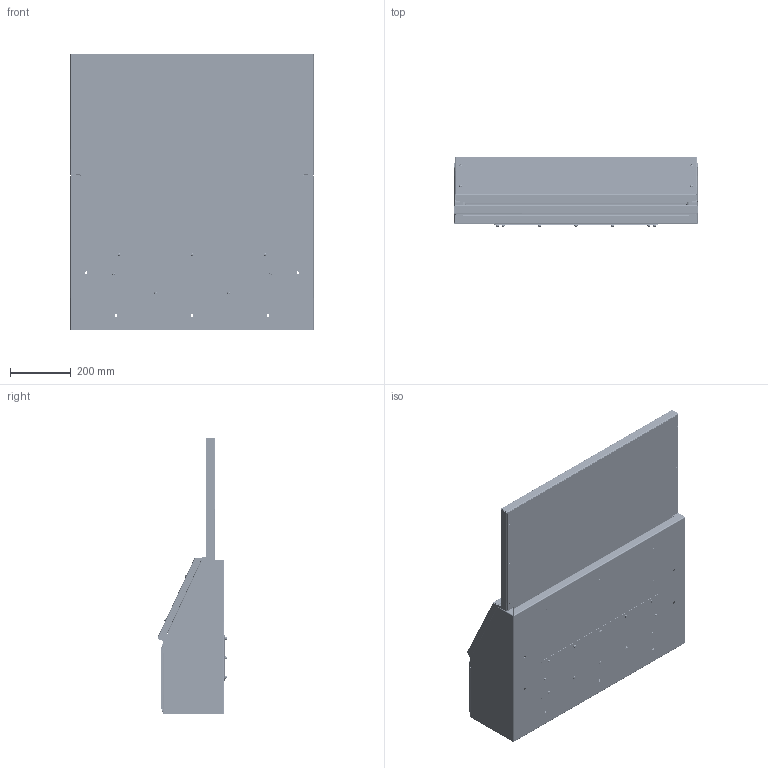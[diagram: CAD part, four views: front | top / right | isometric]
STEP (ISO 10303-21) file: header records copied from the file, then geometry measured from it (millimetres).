
FILE_DESCRIPTION (( 'STEP AP203' ), '1' );
FILE_NAME ('UCS 20.80.90-SPL Ñðåäíÿÿ ÷àñòü ïóëüòà.STEP', '2025-10-02T13:25:29', ( '' ), ( '' ), 'SwSTEP 2.0', 'SolidWorks 2019', '' );
FILE_SCHEMA (( 'CONFIG_CONTROL_DESIGN' ));
Length unit declared in the file: millimetre
Products named in the file (23): UCS 20.80.90-SPL.03.001 拟屦黖UCS 20.80.90-SPL.03.001; UCS 20.80.90-SPL.01.001 扻豵鵨_UCS 20.80.90-SPL.01.001 ; UCS 20.80.90-SPL.05.011 迶鳹樇鳺_05-620; socket button head screw_iso_ISO 7380 - M6 x 12 --- 12N; Øïèëüêà çàçåìëåíèÿ Ì6õ17,5_˜¯¨«ìª  § §¥¬«¥­¨ï Œ6å17,5; UCS 20.80.90-SPL.05.011 迶鳹樇鳺_02-222; Äåòàëü2^##UCS 20.80.90-SPL Ñðåäíÿÿ ÷àñòü ïóëüòà; UCS 20.80.90-SPL.05.001 Âåðõíÿÿ êðûøêà_UCS 20.80.90-SPL.05.001; PKV Y.15 相礤朦 赅徨朦眍泐 忖钿郷PKV 60(15); Äåòàëü1^##UCS 20.80.90-SPL Ñðåäíÿÿ ÷àñòü ïóëüòà_800; 妈眚 襦祛磬疱玎栝_4,8x11; UCS 20.80.90-SPL.05.002 Êðûøêà íèæíÿÿ_UCS 20.80.90-SPL.05.002; UCS 20.80.90-SPL.01.000 蚜 暑痫篑 疋囵眍開UCS 20.80.90-SPL.01.000 憗; Âèíò ñ ïîòàéíîé ãîëîâêîé DIN 965_Œ5å20 ªà¥áâ; UCS 20.80.90-SPL Ñðåäíÿÿ ÷àñòü ïóëüòà; Ãàéêà-çàêë¸ïêà Ì6; UCS 20.80.90-SPL.01.003 Îïîðà; UCS 20.80.90-SPL.03.000 拟屦黖UCS 20.80.90-SPL.03.000; UCS 20.80.90-SPL.01.002 醜鍆趌UCS 20.80.90-SPL.01.002; UCS 20.80.90-SPL.05.000 栺鎀氂膻攡_UCS 20.80.90-SPL.05.000; 腻蜞朦2^UCS 20.80.90-SPL.03.000 拟屦黖800; Ãàéêà-çàêë¸ïêà Ì5 óìåíüøåííàÿ; UCS 20.80.90-SPL.05.011 迶鳹樇鳺_04-795
Assembly tree (103 placements, depth 3):
  UCS 20.80.90-SPL Ñðåäíÿÿ ÷àñòü ïóëüòà
    UCS 20.80.90-SPL.01.000 蚜 暑痫篑 疋囵眍開UCS 20.80.90-SPL.01.000 憗
      UCS 20.80.90-SPL.01.001 扻豵鵨_UCS 20.80.90-SPL.01.001 
      UCS 20.80.90-SPL.01.002 醜鍆趌UCS 20.80.90-SPL.01.002
      Øïèëüêà çàçåìëåíèÿ Ì6õ17,5_˜¯¨«ìª  § §¥¬«¥­¨ï Œ6å17,5
      UCS 20.80.90-SPL.01.003 Îïîðà  x2
    UCS 20.80.90-SPL.03.000 拟屦黖UCS 20.80.90-SPL.03.000
      UCS 20.80.90-SPL.03.001 拟屦黖UCS 20.80.90-SPL.03.001
      Øïèëüêà çàçåìëåíèÿ Ì6õ17,5_˜¯¨«ìª  § §¥¬«¥­¨ï Œ6å17,5
      腻蜞朦2^UCS 20.80.90-SPL.03.000 拟屦黖800
    UCS 20.80.90-SPL.05.000 栺鎀氂膻攡_UCS 20.80.90-SPL.05.000
      UCS 20.80.90-SPL.05.001 Âåðõíÿÿ êðûøêà_UCS 20.80.90-SPL.05.001
      UCS 20.80.90-SPL.05.011 迶鳹樇鳺_04-795  x2
      UCS 20.80.90-SPL.05.011 迶鳹樇鳺_05-620  x3
      UCS 20.80.90-SPL.05.002 Êðûøêà íèæíÿÿ_UCS 20.80.90-SPL.05.002
      UCS 20.80.90-SPL.05.011 迶鳹樇鳺_02-222  x2
      Ãàéêà-çàêë¸ïêà Ì5 óìåíüøåííàÿ  x22
      Âèíò ñ ïîòàéíîé ãîëîâêîé DIN 965_Œ5å20 ªà¥áâ  x22
    Ãàéêà-çàêë¸ïêà Ì6  x16
    PKV Y.15 相礤朦 赅徨朦眍泐 忖钿郷PKV 60(15)
    妈眚 襦祛磬疱玎栝_4,8x11  x12
    socket button head screw_iso_ISO 7380 - M6 x 12 --- 12N  x8
    Äåòàëü1^##UCS 20.80.90-SPL Ñðåäíÿÿ ÷àñòü ïóëüòà_800
    Äåòàëü2^##UCS 20.80.90-SPL Ñðåäíÿÿ ÷àñòü ïóëüòà
Bounding box: 800 x 227.93 x 911.5 mm (x, y, z)
Volume: 4293617.4 mm3; surface area: 5733538.4 mm2
Topology: 100 solids, 100 shells, 5449 faces, 13672 edges, 8594 vertices
Faces by surface type: cylinder 2725, plane 1846, torus 408, bspline 262, cone 192, sphere 16
Entity records: 61649 total; most frequent: CARTESIAN_POINT 18668, DIRECTION 8036, ORIENTED_EDGE 7978, EDGE_CURVE 3989, AXIS2_PLACEMENT_3D 2848, VERTEX_POINT 2470, LINE 2340, VECTOR 2340
